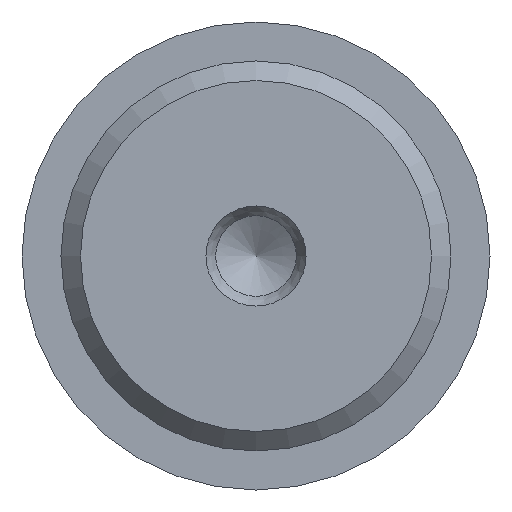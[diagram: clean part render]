
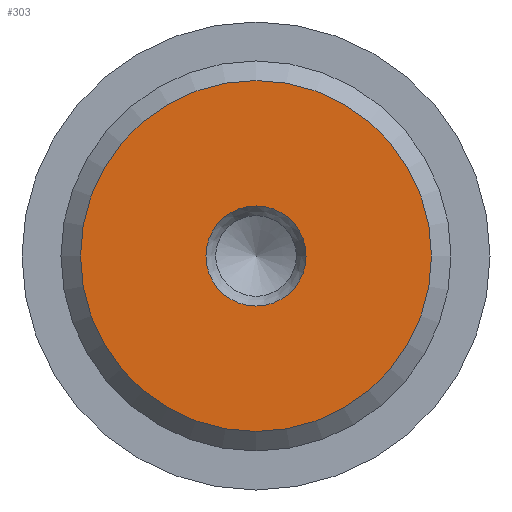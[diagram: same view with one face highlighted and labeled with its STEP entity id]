
A CAD part, front view. The second image highlights one B-rep face of the part: STEP entity #303.
In plain terms, the highlighted planar face has unit normal (0, -1, 0).
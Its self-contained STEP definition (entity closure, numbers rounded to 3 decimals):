
#44=PLANE('',#338);
#64=FACE_BOUND('',#115,.T.);
#83=FACE_OUTER_BOUND('',#114,.T.);
#114=EDGE_LOOP('',(#241));
#115=EDGE_LOOP('',(#242));
#153=CIRCLE('',#337,9.);
#154=CIRCLE('',#339,2.567);
#174=VERTEX_POINT('',#493);
#175=VERTEX_POINT('',#496);
#203=EDGE_CURVE('',#174,#174,#153,.T.);
#204=EDGE_CURVE('',#175,#175,#154,.T.);
#241=ORIENTED_EDGE('',*,*,#203,.F.);
#242=ORIENTED_EDGE('',*,*,#204,.F.);
#303=ADVANCED_FACE('',(#83,#64),#44,.F.);
#337=AXIS2_PLACEMENT_3D('',#494,#398,#399);
#338=AXIS2_PLACEMENT_3D('',#495,#400,#401);
#339=AXIS2_PLACEMENT_3D('',#497,#402,#403);
#398=DIRECTION('center_axis',(0.,1.,0.));
#399=DIRECTION('ref_axis',(-1.,0.,0.));
#400=DIRECTION('center_axis',(0.,1.,0.));
#401=DIRECTION('ref_axis',(0.,0.,1.));
#402=DIRECTION('center_axis',(0.,-1.,0.));
#403=DIRECTION('ref_axis',(-1.,0.,0.));
#493=CARTESIAN_POINT('',(9.,1.,0.));
#494=CARTESIAN_POINT('Origin',(0.,1.,0.));
#495=CARTESIAN_POINT('Origin',(0.,1.,0.));
#496=CARTESIAN_POINT('',(2.567,1.,0.));
#497=CARTESIAN_POINT('Origin',(0.,1.,0.));
